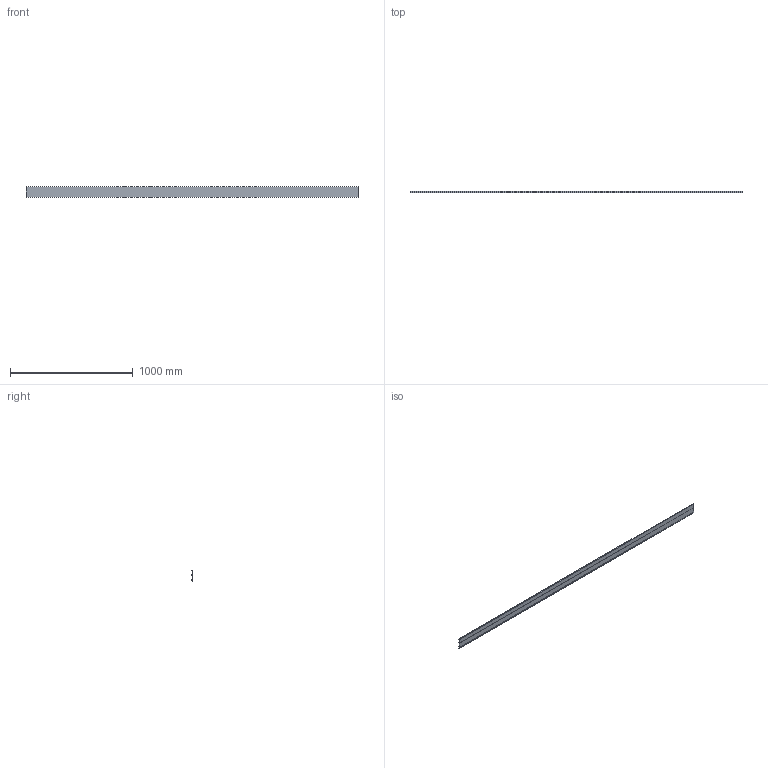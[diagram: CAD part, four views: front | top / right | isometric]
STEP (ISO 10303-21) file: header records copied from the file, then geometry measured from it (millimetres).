
FILE_DESCRIPTION(('STEP AP242'),'1');
FILE_NAME('OPO_65.084.45_volu_schn_3d.stp','2026-02-23T17:31:35',(' '),(' '),'Spatial InterOp 3D',' ',' ');
FILE_SCHEMA(('AP242_MANAGED_MODEL_BASED_3D_ENGINEERING_MIM_LF {1 0 10303 442 1 1 4}'));
Length unit declared in the file: millimetre
Products named in the file (1): 1
Bounding box: 2700 x 13.77 x 89 mm (x, y, z)
Volume: 505121.7 mm3; surface area: 683376.2 mm2
Topology: 1 solids, 1 shells, 63 faces, 313 edges, 400 vertices
Faces by surface type: plane 43, cylinder 20
Entity records: 4242 total; most frequent: DIRECTION 503, CARTESIAN_POINT 490, ORIENTED_EDGE 338, LINE 253, VECTOR 253, STYLED_ITEM 207, PRESENTATION_STYLE_ASSIGNMENT 207, COLOUR_RGB 207
